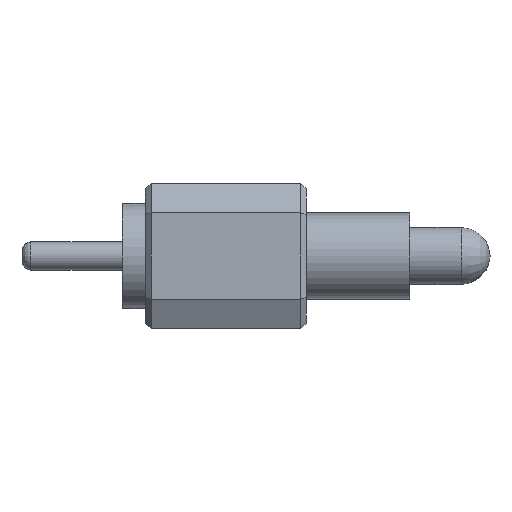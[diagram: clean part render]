
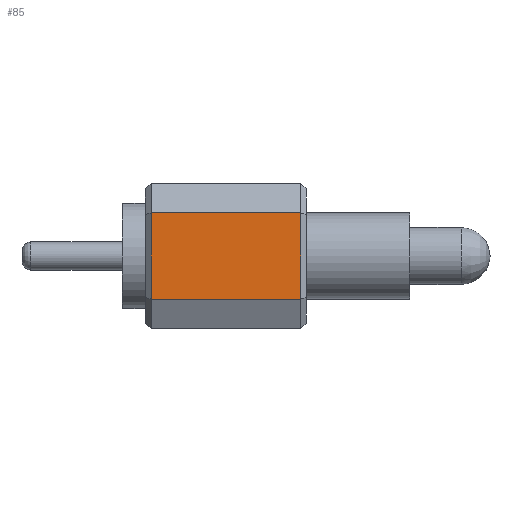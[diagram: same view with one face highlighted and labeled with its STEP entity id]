
A CAD part, front view. The second image highlights one B-rep face of the part: STEP entity #85.
In plain terms, the highlighted planar face has unit normal (0, -1, 0).
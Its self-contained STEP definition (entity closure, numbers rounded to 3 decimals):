
#85 = ADVANCED_FACE('',(#86),#100,.F.);
#86 = FACE_BOUND('',#87,.F.);
#87 = EDGE_LOOP('',(#88,#123,#151,#179));
#88 = ORIENTED_EDGE('',*,*,#89,.T.);
#89 = EDGE_CURVE('',#90,#92,#94,.T.);
#90 = VERTEX_POINT('',#91);
#91 = CARTESIAN_POINT('',(0.5,-1.27,0.75));
#92 = VERTEX_POINT('',#93);
#93 = CARTESIAN_POINT('',(3.1,-1.27,0.75));
#94 = SURFACE_CURVE('',#95,(#99,#111),.PCURVE_S1.);
#95 = LINE('',#96,#97);
#96 = CARTESIAN_POINT('',(0.4,-1.27,0.75));
#97 = VECTOR('',#98,1.);
#98 = DIRECTION('',(1.,0.,0.));
#99 = PCURVE('',#100,#105);
#100 = PLANE('',#101);
#101 = AXIS2_PLACEMENT_3D('',#102,#103,#104);
#102 = CARTESIAN_POINT('',(0.4,-1.27,0.75));
#103 = DIRECTION('',(0.,1.,0.));
#104 = DIRECTION('',(0.,0.,-1.));
#105 = DEFINITIONAL_REPRESENTATION('',(#106),#110);
#106 = LINE('',#107,#108);
#107 = CARTESIAN_POINT('',(0.,0.));
#108 = VECTOR('',#109,1.);
#109 = DIRECTION('',(0.,-1.));
#110 = ( GEOMETRIC_REPRESENTATION_CONTEXT(2) 
PARAMETRIC_REPRESENTATION_CONTEXT() REPRESENTATION_CONTEXT('2D SPACE',''
  ) );
#111 = PCURVE('',#112,#117);
#112 = PLANE('',#113);
#113 = AXIS2_PLACEMENT_3D('',#114,#115,#116);
#114 = CARTESIAN_POINT('',(0.4,-1.,1.27));
#115 = DIRECTION('',(0.,0.887,-0.461));
#116 = DIRECTION('',(0.,-0.461,-0.887));
#117 = DEFINITIONAL_REPRESENTATION('',(#118),#122);
#118 = LINE('',#119,#120);
#119 = CARTESIAN_POINT('',(0.586,0.));
#120 = VECTOR('',#121,1.);
#121 = DIRECTION('',(0.,-1.));
#122 = ( GEOMETRIC_REPRESENTATION_CONTEXT(2) 
PARAMETRIC_REPRESENTATION_CONTEXT() REPRESENTATION_CONTEXT('2D SPACE',''
  ) );
#123 = ORIENTED_EDGE('',*,*,#124,.T.);
#124 = EDGE_CURVE('',#92,#125,#127,.T.);
#125 = VERTEX_POINT('',#126);
#126 = CARTESIAN_POINT('',(3.1,-1.27,-0.75));
#127 = SURFACE_CURVE('',#128,(#132,#139),.PCURVE_S1.);
#128 = LINE('',#129,#130);
#129 = CARTESIAN_POINT('',(3.1,-1.27,0.75));
#130 = VECTOR('',#131,1.);
#131 = DIRECTION('',(0.,0.,-1.));
#132 = PCURVE('',#100,#133);
#133 = DEFINITIONAL_REPRESENTATION('',(#134),#138);
#134 = LINE('',#135,#136);
#135 = CARTESIAN_POINT('',(0.,-2.7));
#136 = VECTOR('',#137,1.);
#137 = DIRECTION('',(1.,0.));
#138 = ( GEOMETRIC_REPRESENTATION_CONTEXT(2) 
PARAMETRIC_REPRESENTATION_CONTEXT() REPRESENTATION_CONTEXT('2D SPACE',''
  ) );
#139 = PCURVE('',#140,#145);
#140 = PLANE('',#141);
#141 = AXIS2_PLACEMENT_3D('',#142,#143,#144);
#142 = CARTESIAN_POINT('',(3.15,-1.22,0.75));
#143 = DIRECTION('',(-0.707,0.707,0.));
#144 = DIRECTION('',(0.,0.,1.));
#145 = DEFINITIONAL_REPRESENTATION('',(#146),#150);
#146 = LINE('',#147,#148);
#147 = CARTESIAN_POINT('',(0.,-0.071));
#148 = VECTOR('',#149,1.);
#149 = DIRECTION('',(-1.,0.));
#150 = ( GEOMETRIC_REPRESENTATION_CONTEXT(2) 
PARAMETRIC_REPRESENTATION_CONTEXT() REPRESENTATION_CONTEXT('2D SPACE',''
  ) );
#151 = ORIENTED_EDGE('',*,*,#152,.F.);
#152 = EDGE_CURVE('',#153,#125,#155,.T.);
#153 = VERTEX_POINT('',#154);
#154 = CARTESIAN_POINT('',(0.5,-1.27,-0.75));
#155 = SURFACE_CURVE('',#156,(#160,#167),.PCURVE_S1.);
#156 = LINE('',#157,#158);
#157 = CARTESIAN_POINT('',(0.4,-1.27,-0.75));
#158 = VECTOR('',#159,1.);
#159 = DIRECTION('',(1.,0.,0.));
#160 = PCURVE('',#100,#161);
#161 = DEFINITIONAL_REPRESENTATION('',(#162),#166);
#162 = LINE('',#163,#164);
#163 = CARTESIAN_POINT('',(1.5,0.));
#164 = VECTOR('',#165,1.);
#165 = DIRECTION('',(0.,-1.));
#166 = ( GEOMETRIC_REPRESENTATION_CONTEXT(2) 
PARAMETRIC_REPRESENTATION_CONTEXT() REPRESENTATION_CONTEXT('2D SPACE',''
  ) );
#167 = PCURVE('',#168,#173);
#168 = PLANE('',#169);
#169 = AXIS2_PLACEMENT_3D('',#170,#171,#172);
#170 = CARTESIAN_POINT('',(0.4,-1.27,-0.75));
#171 = DIRECTION('',(0.,0.887,0.461));
#172 = DIRECTION('',(0.,0.461,-0.887));
#173 = DEFINITIONAL_REPRESENTATION('',(#174),#178);
#174 = LINE('',#175,#176);
#175 = CARTESIAN_POINT('',(0.,0.));
#176 = VECTOR('',#177,1.);
#177 = DIRECTION('',(0.,-1.));
#178 = ( GEOMETRIC_REPRESENTATION_CONTEXT(2) 
PARAMETRIC_REPRESENTATION_CONTEXT() REPRESENTATION_CONTEXT('2D SPACE',''
  ) );
#179 = ORIENTED_EDGE('',*,*,#180,.F.);
#180 = EDGE_CURVE('',#90,#153,#181,.T.);
#181 = SURFACE_CURVE('',#182,(#186,#193),.PCURVE_S1.);
#182 = LINE('',#183,#184);
#183 = CARTESIAN_POINT('',(0.5,-1.27,0.75));
#184 = VECTOR('',#185,1.);
#185 = DIRECTION('',(0.,0.,-1.));
#186 = PCURVE('',#100,#187);
#187 = DEFINITIONAL_REPRESENTATION('',(#188),#192);
#188 = LINE('',#189,#190);
#189 = CARTESIAN_POINT('',(0.,-0.1));
#190 = VECTOR('',#191,1.);
#191 = DIRECTION('',(1.,0.));
#192 = ( GEOMETRIC_REPRESENTATION_CONTEXT(2) 
PARAMETRIC_REPRESENTATION_CONTEXT() REPRESENTATION_CONTEXT('2D SPACE',''
  ) );
#193 = PCURVE('',#194,#199);
#194 = PLANE('',#195);
#195 = AXIS2_PLACEMENT_3D('',#196,#197,#198);
#196 = CARTESIAN_POINT('',(0.45,-1.22,0.75));
#197 = DIRECTION('',(-0.707,-0.707,-0.));
#198 = DIRECTION('',(0.,0.,1.));
#199 = DEFINITIONAL_REPRESENTATION('',(#200),#204);
#200 = LINE('',#201,#202);
#201 = CARTESIAN_POINT('',(0.,-0.071));
#202 = VECTOR('',#203,1.);
#203 = DIRECTION('',(-1.,0.));
#204 = ( GEOMETRIC_REPRESENTATION_CONTEXT(2) 
PARAMETRIC_REPRESENTATION_CONTEXT() REPRESENTATION_CONTEXT('2D SPACE',''
  ) );
